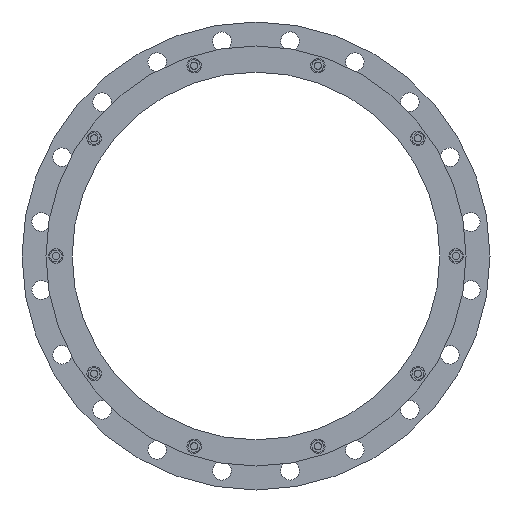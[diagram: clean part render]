
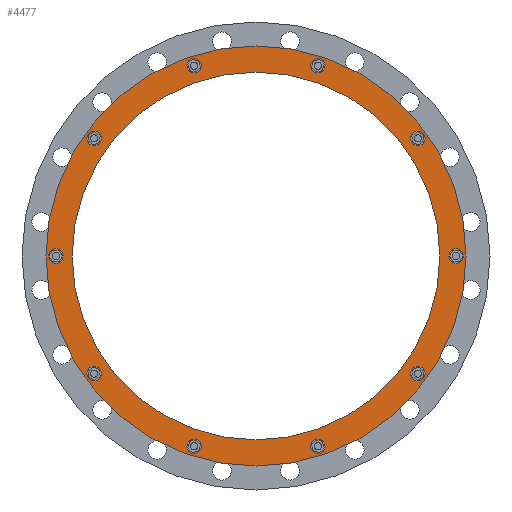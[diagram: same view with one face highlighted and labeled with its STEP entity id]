
A CAD part, front view. The second image highlights one B-rep face of the part: STEP entity #4477.
In plain terms, the highlighted planar face has unit normal (0, -1, 0).
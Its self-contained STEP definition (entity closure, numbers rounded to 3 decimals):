
#1104=CARTESIAN_POINT('',(0.,-94.452,0.));
#1105=DIRECTION('',(0.,-1.,0.));
#1106=DIRECTION('',(1.,0.,0.));
#1107=AXIS2_PLACEMENT_3D('',#1104,#1105,#1106);
#1109=CARTESIAN_POINT('',(0.,-94.452,0.));
#1110=DIRECTION('',(0.,1.,0.));
#1111=DIRECTION('',(1.,0.,0.));
#1112=AXIS2_PLACEMENT_3D('',#1109,#1110,#1111);
#1114=CARTESIAN_POINT('',(333.5,-94.452,0.));
#1115=DIRECTION('',(0.,-1.,0.));
#1116=DIRECTION('',(0.,0.,-1.));
#1117=AXIS2_PLACEMENT_3D('',#1114,#1115,#1116);
#1119=CARTESIAN_POINT('',(333.5,-94.452,0.));
#1120=DIRECTION('',(0.,-1.,0.));
#1121=DIRECTION('',(0.,0.,1.));
#1122=AXIS2_PLACEMENT_3D('',#1119,#1120,#1121);
#1124=CARTESIAN_POINT('',(269.807,-94.452,196.026));
#1125=DIRECTION('',(0.,-1.,0.));
#1126=DIRECTION('',(0.588,0.,-0.809));
#1127=AXIS2_PLACEMENT_3D('',#1124,#1125,#1126);
#1129=CARTESIAN_POINT('',(269.807,-94.452,196.026));
#1130=DIRECTION('',(0.,-1.,0.));
#1131=DIRECTION('',(-0.588,0.,0.809));
#1132=AXIS2_PLACEMENT_3D('',#1129,#1130,#1131);
#1134=CARTESIAN_POINT('',(103.057,-94.452,317.177));
#1135=DIRECTION('',(0.,-1.,0.));
#1136=DIRECTION('',(0.951,0.,-0.309));
#1137=AXIS2_PLACEMENT_3D('',#1134,#1135,#1136);
#1139=CARTESIAN_POINT('',(103.057,-94.452,317.177));
#1140=DIRECTION('',(0.,-1.,0.));
#1141=DIRECTION('',(-0.951,0.,0.309));
#1142=AXIS2_PLACEMENT_3D('',#1139,#1140,#1141);
#1144=CARTESIAN_POINT('',(-103.057,-94.452,317.177));
#1145=DIRECTION('',(0.,-1.,0.));
#1146=DIRECTION('',(0.951,0.,0.309));
#1147=AXIS2_PLACEMENT_3D('',#1144,#1145,#1146);
#1149=CARTESIAN_POINT('',(-103.057,-94.452,317.177));
#1150=DIRECTION('',(0.,-1.,0.));
#1151=DIRECTION('',(-0.951,0.,-0.309));
#1152=AXIS2_PLACEMENT_3D('',#1149,#1150,#1151);
#1154=CARTESIAN_POINT('',(-269.807,-94.452,196.026));
#1155=DIRECTION('',(0.,-1.,0.));
#1156=DIRECTION('',(0.588,0.,0.809));
#1157=AXIS2_PLACEMENT_3D('',#1154,#1155,#1156);
#1159=CARTESIAN_POINT('',(-269.807,-94.452,196.026));
#1160=DIRECTION('',(0.,-1.,0.));
#1161=DIRECTION('',(-0.588,0.,-0.809));
#1162=AXIS2_PLACEMENT_3D('',#1159,#1160,#1161);
#1164=CARTESIAN_POINT('',(-333.5,-94.452,0.));
#1165=DIRECTION('',(0.,-1.,0.));
#1166=DIRECTION('',(0.,0.,1.));
#1167=AXIS2_PLACEMENT_3D('',#1164,#1165,#1166);
#1169=CARTESIAN_POINT('',(-333.5,-94.452,0.));
#1170=DIRECTION('',(0.,-1.,0.));
#1171=DIRECTION('',(0.,0.,-1.));
#1172=AXIS2_PLACEMENT_3D('',#1169,#1170,#1171);
#1174=CARTESIAN_POINT('',(-269.807,-94.452,-196.026));
#1175=DIRECTION('',(0.,-1.,0.));
#1176=DIRECTION('',(-0.588,0.,0.809));
#1177=AXIS2_PLACEMENT_3D('',#1174,#1175,#1176);
#1179=CARTESIAN_POINT('',(-269.807,-94.452,-196.026));
#1180=DIRECTION('',(0.,-1.,0.));
#1181=DIRECTION('',(0.588,0.,-0.809));
#1182=AXIS2_PLACEMENT_3D('',#1179,#1180,#1181);
#1184=CARTESIAN_POINT('',(-103.057,-94.452,-317.177));
#1185=DIRECTION('',(0.,-1.,0.));
#1186=DIRECTION('',(-0.951,0.,0.309));
#1187=AXIS2_PLACEMENT_3D('',#1184,#1185,#1186);
#1189=CARTESIAN_POINT('',(-103.057,-94.452,-317.177));
#1190=DIRECTION('',(0.,-1.,0.));
#1191=DIRECTION('',(0.951,0.,-0.309));
#1192=AXIS2_PLACEMENT_3D('',#1189,#1190,#1191);
#1194=CARTESIAN_POINT('',(103.057,-94.452,-317.177));
#1195=DIRECTION('',(0.,-1.,0.));
#1196=DIRECTION('',(-0.951,0.,-0.309));
#1197=AXIS2_PLACEMENT_3D('',#1194,#1195,#1196);
#1199=CARTESIAN_POINT('',(103.057,-94.452,-317.177));
#1200=DIRECTION('',(0.,-1.,0.));
#1201=DIRECTION('',(0.951,0.,0.309));
#1202=AXIS2_PLACEMENT_3D('',#1199,#1200,#1201);
#1204=CARTESIAN_POINT('',(269.807,-94.452,-196.026));
#1205=DIRECTION('',(0.,-1.,0.));
#1206=DIRECTION('',(-0.588,0.,-0.809));
#1207=AXIS2_PLACEMENT_3D('',#1204,#1205,#1206);
#1209=CARTESIAN_POINT('',(269.807,-94.452,-196.026));
#1210=DIRECTION('',(0.,-1.,0.));
#1211=DIRECTION('',(0.588,0.,0.809));
#1212=AXIS2_PLACEMENT_3D('',#1209,#1210,#1211);
#1214=CARTESIAN_POINT('',(0.,-94.452,0.));
#1215=DIRECTION('',(0.,1.,0.));
#1216=DIRECTION('',(1.,0.,0.));
#1217=AXIS2_PLACEMENT_3D('',#1214,#1215,#1216);
#1227=CARTESIAN_POINT('',(0.,-94.452,0.));
#1228=DIRECTION('',(0.,-1.,0.));
#1229=DIRECTION('',(1.,0.,0.));
#1230=AXIS2_PLACEMENT_3D('',#1227,#1228,#1229);
#2975=CARTESIAN_POINT('',(350.1,-94.452,0.));
#2977=VERTEX_POINT('',#2975);
#2978=CARTESIAN_POINT('',(306.5,-94.452,0.));
#2980=VERTEX_POINT('',#2978);
#2987=CARTESIAN_POINT('',(-350.1,-94.452,0.));
#2989=VERTEX_POINT('',#2987);
#2990=CARTESIAN_POINT('',(-306.5,-94.452,0.));
#2992=VERTEX_POINT('',#2990);
#3029=CARTESIAN_POINT('',(333.5,-94.452,-12.));
#3030=CARTESIAN_POINT('',(333.5,-94.452,12.));
#3031=VERTEX_POINT('',#3029);
#3032=VERTEX_POINT('',#3030);
#3078=CARTESIAN_POINT('',(276.861,-94.452,186.318));
#3079=VERTEX_POINT('',#3078);
#3080=CARTESIAN_POINT('',(262.754,-94.452,205.735));
#3081=VERTEX_POINT('',#3080);
#3122=CARTESIAN_POINT('',(114.47,-94.452,313.469));
#3123=VERTEX_POINT('',#3122);
#3124=CARTESIAN_POINT('',(91.644,-94.452,320.886));
#3125=VERTEX_POINT('',#3124);
#3166=CARTESIAN_POINT('',(-91.644,-94.452,320.886));
#3167=VERTEX_POINT('',#3166);
#3168=CARTESIAN_POINT('',(-114.47,-94.452,313.469));
#3169=VERTEX_POINT('',#3168);
#3210=CARTESIAN_POINT('',(-262.754,-94.452,205.735));
#3211=VERTEX_POINT('',#3210);
#3212=CARTESIAN_POINT('',(-276.861,-94.452,186.318));
#3213=VERTEX_POINT('',#3212);
#3254=CARTESIAN_POINT('',(-333.5,-94.452,12.));
#3255=VERTEX_POINT('',#3254);
#3256=CARTESIAN_POINT('',(-333.5,-94.452,-12.));
#3257=VERTEX_POINT('',#3256);
#3298=CARTESIAN_POINT('',(-276.861,-94.452,-186.318));
#3299=VERTEX_POINT('',#3298);
#3300=CARTESIAN_POINT('',(-262.754,-94.452,-205.735));
#3301=VERTEX_POINT('',#3300);
#3342=CARTESIAN_POINT('',(-114.47,-94.452,-313.469));
#3343=VERTEX_POINT('',#3342);
#3344=CARTESIAN_POINT('',(-91.644,-94.452,-320.886));
#3345=VERTEX_POINT('',#3344);
#3557=CARTESIAN_POINT('',(91.644,-94.452,-320.886));
#3558=VERTEX_POINT('',#3557);
#3559=CARTESIAN_POINT('',(114.47,-94.452,-313.469));
#3560=VERTEX_POINT('',#3559);
#3601=CARTESIAN_POINT('',(262.754,-94.452,-205.735));
#3602=VERTEX_POINT('',#3601);
#3603=CARTESIAN_POINT('',(276.861,-94.452,-186.318));
#3604=VERTEX_POINT('',#3603);
#4402=CARTESIAN_POINT('',(0.,-94.452,0.));
#4403=DIRECTION('',(0.,1.,0.));
#4404=DIRECTION('',(-1.,0.,0.));
#4405=AXIS2_PLACEMENT_3D('',#4402,#4403,#4404);
#4406=PLANE('',#4405);
#4408=ORIENTED_EDGE('',*,*,#4407,.F.);
#4410=ORIENTED_EDGE('',*,*,#4409,.T.);
#4411=EDGE_LOOP('',(#4408,#4410));
#4412=FACE_OUTER_BOUND('',#4411,.F.);
#4414=ORIENTED_EDGE('',*,*,#4413,.F.);
#4416=ORIENTED_EDGE('',*,*,#4415,.T.);
#4417=EDGE_LOOP('',(#4414,#4416));
#4418=FACE_BOUND('',#4417,.F.);
#4420=ORIENTED_EDGE('',*,*,#4419,.T.);
#4422=ORIENTED_EDGE('',*,*,#4421,.T.);
#4423=EDGE_LOOP('',(#4420,#4422));
#4424=FACE_BOUND('',#4423,.F.);
#4426=ORIENTED_EDGE('',*,*,#4425,.T.);
#4428=ORIENTED_EDGE('',*,*,#4427,.T.);
#4429=EDGE_LOOP('',(#4426,#4428));
#4430=FACE_BOUND('',#4429,.F.);
#4432=ORIENTED_EDGE('',*,*,#4431,.T.);
#4434=ORIENTED_EDGE('',*,*,#4433,.T.);
#4435=EDGE_LOOP('',(#4432,#4434));
#4436=FACE_BOUND('',#4435,.F.);
#4438=ORIENTED_EDGE('',*,*,#4437,.T.);
#4440=ORIENTED_EDGE('',*,*,#4439,.T.);
#4441=EDGE_LOOP('',(#4438,#4440));
#4442=FACE_BOUND('',#4441,.F.);
#4444=ORIENTED_EDGE('',*,*,#4443,.T.);
#4446=ORIENTED_EDGE('',*,*,#4445,.T.);
#4447=EDGE_LOOP('',(#4444,#4446));
#4448=FACE_BOUND('',#4447,.F.);
#4450=ORIENTED_EDGE('',*,*,#4449,.T.);
#4452=ORIENTED_EDGE('',*,*,#4451,.T.);
#4453=EDGE_LOOP('',(#4450,#4452));
#4454=FACE_BOUND('',#4453,.F.);
#4456=ORIENTED_EDGE('',*,*,#4455,.T.);
#4458=ORIENTED_EDGE('',*,*,#4457,.T.);
#4459=EDGE_LOOP('',(#4456,#4458));
#4460=FACE_BOUND('',#4459,.F.);
#4462=ORIENTED_EDGE('',*,*,#4461,.T.);
#4464=ORIENTED_EDGE('',*,*,#4463,.T.);
#4465=EDGE_LOOP('',(#4462,#4464));
#4466=FACE_BOUND('',#4465,.F.);
#4467=ORIENTED_EDGE('',*,*,#4384,.T.);
#4468=ORIENTED_EDGE('',*,*,#4395,.T.);
#4469=EDGE_LOOP('',(#4467,#4468));
#4470=FACE_BOUND('',#4469,.F.);
#4472=ORIENTED_EDGE('',*,*,#4471,.T.);
#4474=ORIENTED_EDGE('',*,*,#4473,.T.);
#4475=EDGE_LOOP('',(#4472,#4474));
#4476=FACE_BOUND('',#4475,.F.);
#4477=ADVANCED_FACE('',(#4412,#4418,#4424,#4430,#4436,#4442,#4448,#4454,#4460,
#4466,#4470,#4476),#4406,.F.);
#1108=CIRCLE('',#1107,350.1);
#1113=CIRCLE('',#1112,350.1);
#1118=CIRCLE('',#1117,12.);
#1123=CIRCLE('',#1122,12.);
#1128=CIRCLE('',#1127,12.);
#1133=CIRCLE('',#1132,12.);
#1138=CIRCLE('',#1137,12.);
#1143=CIRCLE('',#1142,12.);
#1148=CIRCLE('',#1147,12.);
#1153=CIRCLE('',#1152,12.);
#1158=CIRCLE('',#1157,12.);
#1163=CIRCLE('',#1162,12.);
#1168=CIRCLE('',#1167,12.);
#1173=CIRCLE('',#1172,12.);
#1178=CIRCLE('',#1177,12.);
#1183=CIRCLE('',#1182,12.);
#1188=CIRCLE('',#1187,12.);
#1193=CIRCLE('',#1192,12.);
#1198=CIRCLE('',#1197,12.);
#1203=CIRCLE('',#1202,12.);
#1208=CIRCLE('',#1207,12.);
#1213=CIRCLE('',#1212,12.);
#1218=CIRCLE('',#1217,306.5);
#1231=CIRCLE('',#1230,306.5);
#4384=EDGE_CURVE('',#3558,#3560,#1198,.T.);
#4395=EDGE_CURVE('',#3560,#3558,#1203,.T.);
#4407=EDGE_CURVE('',#2977,#2989,#1108,.T.);
#4409=EDGE_CURVE('',#2977,#2989,#1113,.T.);
#4413=EDGE_CURVE('',#2980,#2992,#1218,.T.);
#4415=EDGE_CURVE('',#2980,#2992,#1231,.T.);
#4419=EDGE_CURVE('',#3031,#3032,#1118,.T.);
#4421=EDGE_CURVE('',#3032,#3031,#1123,.T.);
#4425=EDGE_CURVE('',#3079,#3081,#1128,.T.);
#4427=EDGE_CURVE('',#3081,#3079,#1133,.T.);
#4431=EDGE_CURVE('',#3123,#3125,#1138,.T.);
#4433=EDGE_CURVE('',#3125,#3123,#1143,.T.);
#4437=EDGE_CURVE('',#3167,#3169,#1148,.T.);
#4439=EDGE_CURVE('',#3169,#3167,#1153,.T.);
#4443=EDGE_CURVE('',#3211,#3213,#1158,.T.);
#4445=EDGE_CURVE('',#3213,#3211,#1163,.T.);
#4449=EDGE_CURVE('',#3255,#3257,#1168,.T.);
#4451=EDGE_CURVE('',#3257,#3255,#1173,.T.);
#4455=EDGE_CURVE('',#3299,#3301,#1178,.T.);
#4457=EDGE_CURVE('',#3301,#3299,#1183,.T.);
#4461=EDGE_CURVE('',#3343,#3345,#1188,.T.);
#4463=EDGE_CURVE('',#3345,#3343,#1193,.T.);
#4471=EDGE_CURVE('',#3602,#3604,#1208,.T.);
#4473=EDGE_CURVE('',#3604,#3602,#1213,.T.);
